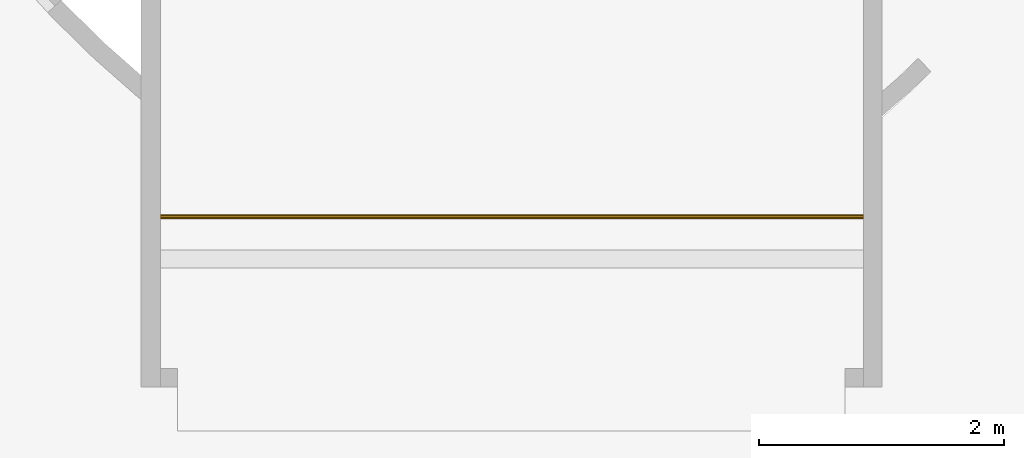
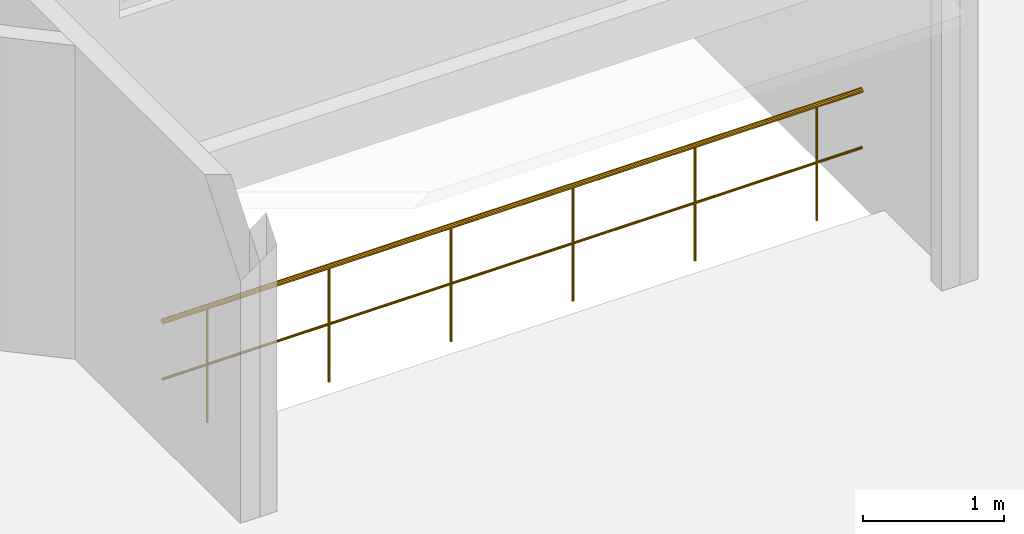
"""IFC4 building model written with IfcOpenShell, lengths in metres."""

from ifc_helpers import new_model, entity, si_unit, converted_unit, derived_unit, frame, origin, place, context, subcontext, project, spatial, faceted_brep, element, save


model = new_model("IFC4")

# Units and contexts
model_context = context("Model", 3, precision=1e-05, world=origin())
body_context = subcontext(model_context, "Body", "Model", "MODEL_VIEW")
ifc_project = project(units=[si_unit("LENGTHUNIT", "METRE"), si_unit("AREAUNIT", "SQUARE_METRE"), si_unit("VOLUMEUNIT", "CUBIC_METRE"), si_unit("MASSUNIT", "GRAM", prefix="KILO"), converted_unit("PLANEANGLEUNIT", "DEGREE", entity("IfcPlaneAngleMeasure", 0.0174532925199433), si_unit("PLANEANGLEUNIT", "RADIAN"), dimensions=[0, 0, 0, 0, 0, 0, 0]), derived_unit("THERMALTRANSMITTANCEUNIT", [(si_unit("POWERUNIT", "WATT"), 1), (si_unit("THERMODYNAMICTEMPERATUREUNIT", "KELVIN"), -1), (si_unit("LENGTHUNIT", "METRE"), -2)]), derived_unit("VOLUMETRICFLOWRATEUNIT", [(si_unit("LENGTHUNIT", "METRE"), 3), (converted_unit("TIMEUNIT", "hour", entity("IfcTimeMeasure", 3600.0), si_unit("TIMEUNIT", "SECOND"), dimensions=[0, 0, 1, 0, 0, 0, 0]), -1), (si_unit("LENGTHUNIT", "METRE"), -1)])], contexts=[model_context])

# Building, storeys
building_placement = place(None, origin())
building = spatial("IfcBuilding", under=ifc_project, at=building_placement, Name="HABITATGE PLURIFAMILIAR", CompositionType="ELEMENT")
storey_1_placement = place(building_placement, frame((0.0, 0.0, 21.2)))
storey_1 = spatial("IfcBuildingStorey", under=building, at=storey_1_placement, Name="PLANTA SOTACOBERTA", CompositionType="ELEMENT", Elevation=21.2)
storey_2_placement = place(storey_1_placement, origin())
storey_2 = spatial("IfcBuildingStorey", under=storey_1, at=storey_2_placement, Name="NOU", CompositionType="PARTIAL")

# Railing
railing_placement = place(storey_2_placement, frame((409.744883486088, 21.2286756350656, 0.0)))
element("IfcRailing", 1, at=railing_placement, inside=storey_2, Name="Baranna PSC exterior", context=body_context, shape_type="Brep", body=[
    faceted_brep([(5.74204814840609, 0.0, 1.00535898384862), (5.74204814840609, 0.0053589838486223, 1.01464101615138), (5.74204814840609, 0.0146410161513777, 1.02), (5.74204814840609, 0.0253589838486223, 1.02), (5.74204814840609, 0.0346410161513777, 1.01464101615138), (5.74204814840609, 0.04, 1.00535898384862), (5.74204814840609, 0.04, 0.994641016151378), (5.74204814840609, 0.0346410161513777, 0.985358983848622), (5.74204814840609, 0.0253589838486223, 0.98), (5.74204814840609, 0.0146410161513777, 0.98), (5.74204814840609, 0.0053589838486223, 0.985358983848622), (5.74204814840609, 0.0, 0.994641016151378), (0.0, 0.0, 1.00535898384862), (0.0, 0.0, 0.994641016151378), (0.0, 0.0053589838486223, 0.985358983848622), (0.0, 0.0146410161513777, 0.98), (0.0, 0.0253589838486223, 0.98), (0.0, 0.0346410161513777, 0.985358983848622), (0.0, 0.04, 0.994641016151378), (0.0, 0.04, 1.00535898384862), (0.0, 0.0346410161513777, 1.01464101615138), (0.0, 0.0253589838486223, 1.02), (0.0, 0.0146410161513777, 1.02), (0.0, 0.0053589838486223, 1.01464101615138)], [[[0, 1, 2, 3, 4, 5, 6, 7, 8, 9, 10, 11]], [[12, 13, 14, 15, 16, 17, 18, 19, 20, 21, 22, 23]], [[0, 12, 23, 1]], [[1, 23, 22, 2]], [[2, 22, 21, 3]], [[3, 21, 20, 4]], [[4, 20, 19, 5]], [[5, 19, 18, 6]], [[6, 18, 17, 7]], [[7, 17, 16, 8]], [[8, 16, 15, 9]], [[9, 15, 14, 10]], [[10, 14, 13, 11]], [[11, 13, 12, 0]]], orient=[[False], [False], [False], [False], [False], [False], [False], [False], [False], [False], [False], [False], [False], [False]]),
    faceted_brep([(5.36102407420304, 0.0173205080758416, 0.0), (5.36370356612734, 0.0126794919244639, 0.0), (5.36834458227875, 0.0100000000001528, 0.0), (5.37370356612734, 0.0100000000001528, 0.0), (5.37834458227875, 0.0126794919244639, 0.0), (5.38102407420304, 0.0173205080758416, 0.0), (5.38102407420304, 0.0226794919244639, 0.0), (5.37834458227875, 0.0273205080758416, 0.0), (5.37370356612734, 0.0300000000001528, 0.0), (5.36834458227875, 0.0300000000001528, 0.0), (5.36370356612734, 0.0273205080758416, 0.0), (5.36102407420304, 0.0226794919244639, 0.0), (5.36102407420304, 0.0173205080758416, 1.0), (5.36102407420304, 0.0226794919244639, 1.0), (5.36370356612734, 0.0273205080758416, 1.0), (5.36834458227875, 0.0300000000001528, 1.0), (5.37370356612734, 0.0300000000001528, 1.0), (5.37834458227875, 0.0273205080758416, 1.0), (5.38102407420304, 0.0226794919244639, 1.0), (5.38102407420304, 0.0173205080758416, 1.0), (5.37834458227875, 0.0126794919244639, 1.0), (5.37370356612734, 0.0100000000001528, 1.0), (5.36834458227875, 0.0100000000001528, 1.0), (5.36370356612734, 0.0126794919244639, 1.0)], [[[0, 1, 2, 3, 4, 5, 6, 7, 8, 9, 10, 11]], [[12, 13, 14, 15, 16, 17, 18, 19, 20, 21, 22, 23]], [[0, 12, 23, 1]], [[1, 23, 22, 2]], [[2, 22, 21, 3]], [[3, 21, 20, 4]], [[4, 20, 19, 5]], [[5, 19, 18, 6]], [[6, 18, 17, 7]], [[7, 17, 16, 8]], [[8, 16, 15, 9]], [[9, 15, 14, 10]], [[10, 14, 13, 11]], [[11, 13, 12, 0]]], orient=[[False], [False], [False], [False], [False], [False], [False], [False], [False], [False], [False], [False], [False], [False]]),
    faceted_brep([(4.36102407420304, 0.0173205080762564, 0.0), (4.36370356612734, 0.0126794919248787, 0.0), (4.36834458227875, 0.0100000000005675, 0.0), (4.37370356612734, 0.0100000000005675, 0.0), (4.37834458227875, 0.0126794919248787, 0.0), (4.38102407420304, 0.0173205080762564, 0.0), (4.38102407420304, 0.0226794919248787, 0.0), (4.37834458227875, 0.0273205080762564, 0.0), (4.37370356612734, 0.0300000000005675, 0.0), (4.36834458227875, 0.0300000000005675, 0.0), (4.36370356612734, 0.0273205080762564, 0.0), (4.36102407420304, 0.0226794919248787, 0.0), (4.36102407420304, 0.0173205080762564, 1.0), (4.36102407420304, 0.0226794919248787, 1.0), (4.36370356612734, 0.0273205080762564, 1.0), (4.36834458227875, 0.0300000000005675, 1.0), (4.37370356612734, 0.0300000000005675, 1.0), (4.37834458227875, 0.0273205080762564, 1.0), (4.38102407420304, 0.0226794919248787, 1.0), (4.38102407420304, 0.0173205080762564, 1.0), (4.37834458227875, 0.0126794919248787, 1.0), (4.37370356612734, 0.0100000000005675, 1.0), (4.36834458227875, 0.0100000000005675, 1.0), (4.36370356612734, 0.0126794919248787, 1.0)], [[[0, 1, 2, 3, 4, 5, 6, 7, 8, 9, 10, 11]], [[12, 13, 14, 15, 16, 17, 18, 19, 20, 21, 22, 23]], [[0, 12, 23, 1]], [[1, 23, 22, 2]], [[2, 22, 21, 3]], [[3, 21, 20, 4]], [[4, 20, 19, 5]], [[5, 19, 18, 6]], [[6, 18, 17, 7]], [[7, 17, 16, 8]], [[8, 16, 15, 9]], [[9, 15, 14, 10]], [[10, 14, 13, 11]], [[11, 13, 12, 0]]], orient=[[False], [False], [False], [False], [False], [False], [False], [False], [False], [False], [False], [False], [False], [False]]),
    faceted_brep([(3.36102407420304, 0.0173205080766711, 0.0), (3.36370356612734, 0.0126794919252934, 0.0), (3.36834458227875, 0.0100000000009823, 0.0), (3.37370356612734, 0.0100000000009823, 0.0), (3.37834458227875, 0.0126794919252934, 0.0), (3.38102407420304, 0.0173205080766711, 0.0), (3.38102407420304, 0.0226794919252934, 0.0), (3.37834458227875, 0.0273205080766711, 0.0), (3.37370356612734, 0.0300000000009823, 0.0), (3.36834458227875, 0.0300000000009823, 0.0), (3.36370356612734, 0.0273205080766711, 0.0), (3.36102407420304, 0.0226794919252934, 0.0), (3.36102407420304, 0.0173205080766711, 1.0), (3.36102407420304, 0.0226794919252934, 1.0), (3.36370356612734, 0.0273205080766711, 1.0), (3.36834458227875, 0.0300000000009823, 1.0), (3.37370356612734, 0.0300000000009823, 1.0), (3.37834458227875, 0.0273205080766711, 1.0), (3.38102407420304, 0.0226794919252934, 1.0), (3.38102407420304, 0.0173205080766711, 1.0), (3.37834458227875, 0.0126794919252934, 1.0), (3.37370356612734, 0.0100000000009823, 1.0), (3.36834458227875, 0.0100000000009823, 1.0), (3.36370356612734, 0.0126794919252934, 1.0)], [[[0, 1, 2, 3, 4, 5, 6, 7, 8, 9, 10, 11]], [[12, 13, 14, 15, 16, 17, 18, 19, 20, 21, 22, 23]], [[0, 12, 23, 1]], [[1, 23, 22, 2]], [[2, 22, 21, 3]], [[3, 21, 20, 4]], [[4, 20, 19, 5]], [[5, 19, 18, 6]], [[6, 18, 17, 7]], [[7, 17, 16, 8]], [[8, 16, 15, 9]], [[9, 15, 14, 10]], [[10, 14, 13, 11]], [[11, 13, 12, 0]]], orient=[[False], [False], [False], [False], [False], [False], [False], [False], [False], [False], [False], [False], [False], [False]]),
    faceted_brep([(2.36102407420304, 0.0173205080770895, 0.0), (2.36370356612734, 0.0126794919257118, 0.0), (2.36834458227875, 0.0100000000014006, 0.0), (2.37370356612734, 0.0100000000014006, 0.0), (2.37834458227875, 0.0126794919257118, 0.0), (2.38102407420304, 0.0173205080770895, 0.0), (2.38102407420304, 0.0226794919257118, 0.0), (2.37834458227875, 0.0273205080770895, 0.0), (2.37370356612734, 0.0300000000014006, 0.0), (2.36834458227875, 0.0300000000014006, 0.0), (2.36370356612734, 0.0273205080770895, 0.0), (2.36102407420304, 0.0226794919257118, 0.0), (2.36102407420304, 0.0173205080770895, 1.0), (2.36102407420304, 0.0226794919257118, 1.0), (2.36370356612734, 0.0273205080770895, 1.0), (2.36834458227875, 0.0300000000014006, 1.0), (2.37370356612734, 0.0300000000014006, 1.0), (2.37834458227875, 0.0273205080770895, 1.0), (2.38102407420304, 0.0226794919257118, 1.0), (2.38102407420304, 0.0173205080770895, 1.0), (2.37834458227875, 0.0126794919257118, 1.0), (2.37370356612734, 0.0100000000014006, 1.0), (2.36834458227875, 0.0100000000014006, 1.0), (2.36370356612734, 0.0126794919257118, 1.0)], [[[0, 1, 2, 3, 4, 5, 6, 7, 8, 9, 10, 11]], [[12, 13, 14, 15, 16, 17, 18, 19, 20, 21, 22, 23]], [[0, 12, 23, 1]], [[1, 23, 22, 2]], [[2, 22, 21, 3]], [[3, 21, 20, 4]], [[4, 20, 19, 5]], [[5, 19, 18, 6]], [[6, 18, 17, 7]], [[7, 17, 16, 8]], [[8, 16, 15, 9]], [[9, 15, 14, 10]], [[10, 14, 13, 11]], [[11, 13, 12, 0]]], orient=[[False], [False], [False], [False], [False], [False], [False], [False], [False], [False], [False], [False], [False], [False]]),
    faceted_brep([(1.36102407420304, 0.0173205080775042, 0.0), (1.36370356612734, 0.0126794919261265, 0.0), (1.36834458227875, 0.0100000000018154, 0.0), (1.37370356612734, 0.0100000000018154, 0.0), (1.37834458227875, 0.0126794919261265, 0.0), (1.38102407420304, 0.0173205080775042, 0.0), (1.38102407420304, 0.0226794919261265, 0.0), (1.37834458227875, 0.0273205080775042, 0.0), (1.37370356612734, 0.0300000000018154, 0.0), (1.36834458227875, 0.0300000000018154, 0.0), (1.36370356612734, 0.0273205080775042, 0.0), (1.36102407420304, 0.0226794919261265, 0.0), (1.36102407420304, 0.0173205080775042, 1.0), (1.36102407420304, 0.0226794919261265, 1.0), (1.36370356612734, 0.0273205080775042, 1.0), (1.36834458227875, 0.0300000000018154, 1.0), (1.37370356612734, 0.0300000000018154, 1.0), (1.37834458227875, 0.0273205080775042, 1.0), (1.38102407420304, 0.0226794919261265, 1.0), (1.38102407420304, 0.0173205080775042, 1.0), (1.37834458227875, 0.0126794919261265, 1.0), (1.37370356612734, 0.0100000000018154, 1.0), (1.36834458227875, 0.0100000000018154, 1.0), (1.36370356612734, 0.0126794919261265, 1.0)], [[[0, 1, 2, 3, 4, 5, 6, 7, 8, 9, 10, 11]], [[12, 13, 14, 15, 16, 17, 18, 19, 20, 21, 22, 23]], [[0, 12, 23, 1]], [[1, 23, 22, 2]], [[2, 22, 21, 3]], [[3, 21, 20, 4]], [[4, 20, 19, 5]], [[5, 19, 18, 6]], [[6, 18, 17, 7]], [[7, 17, 16, 8]], [[8, 16, 15, 9]], [[9, 15, 14, 10]], [[10, 14, 13, 11]], [[11, 13, 12, 0]]], orient=[[False], [False], [False], [False], [False], [False], [False], [False], [False], [False], [False], [False], [False], [False]]),
    faceted_brep([(0.361024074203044, 0.0173205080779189, 0.0), (0.36370356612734, 0.0126794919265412, 0.0), (0.368344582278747, 0.0100000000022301, 0.0), (0.37370356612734, 0.0100000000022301, 0.0), (0.378344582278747, 0.0126794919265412, 0.0), (0.381024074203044, 0.0173205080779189, 0.0), (0.381024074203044, 0.0226794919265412, 0.0), (0.378344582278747, 0.0273205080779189, 0.0), (0.37370356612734, 0.0300000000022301, 0.0), (0.368344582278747, 0.0300000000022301, 0.0), (0.36370356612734, 0.0273205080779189, 0.0), (0.361024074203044, 0.0226794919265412, 0.0), (0.361024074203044, 0.0173205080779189, 1.0), (0.361024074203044, 0.0226794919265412, 1.0), (0.36370356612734, 0.0273205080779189, 1.0), (0.368344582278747, 0.0300000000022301, 1.0), (0.37370356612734, 0.0300000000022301, 1.0), (0.378344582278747, 0.0273205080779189, 1.0), (0.381024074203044, 0.0226794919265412, 1.0), (0.381024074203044, 0.0173205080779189, 1.0), (0.378344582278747, 0.0126794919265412, 1.0), (0.37370356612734, 0.0100000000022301, 1.0), (0.368344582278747, 0.0100000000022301, 1.0), (0.36370356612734, 0.0126794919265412, 1.0)], [[[0, 1, 2, 3, 4, 5, 6, 7, 8, 9, 10, 11]], [[12, 13, 14, 15, 16, 17, 18, 19, 20, 21, 22, 23]], [[0, 12, 23, 1]], [[1, 23, 22, 2]], [[2, 22, 21, 3]], [[3, 21, 20, 4]], [[4, 20, 19, 5]], [[5, 19, 18, 6]], [[6, 18, 17, 7]], [[7, 17, 16, 8]], [[8, 16, 15, 9]], [[9, 15, 14, 10]], [[10, 14, 13, 11]], [[11, 13, 12, 0]]], orient=[[False], [False], [False], [False], [False], [False], [False], [False], [False], [False], [False], [False], [False], [False]]),
    faceted_brep([(5.74204814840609, 0.01, 0.502679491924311), (5.74204814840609, 0.0126794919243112, 0.507320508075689), (5.74204814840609, 0.0173205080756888, 0.51), (5.74204814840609, 0.0226794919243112, 0.51), (5.74204814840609, 0.0273205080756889, 0.507320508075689), (5.74204814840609, 0.03, 0.502679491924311), (5.74204814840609, 0.03, 0.497320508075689), (5.74204814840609, 0.0273205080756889, 0.492679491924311), (5.74204814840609, 0.0226794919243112, 0.49), (5.74204814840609, 0.0173205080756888, 0.49), (5.74204814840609, 0.0126794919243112, 0.492679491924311), (5.74204814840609, 0.01, 0.497320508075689), (5.37102407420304, 0.01, 0.502679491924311), (5.37102407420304, 0.01, 0.497320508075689), (5.37102407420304, 0.0126794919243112, 0.492679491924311), (5.37102407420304, 0.0173205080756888, 0.49), (5.37102407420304, 0.0226794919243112, 0.49), (5.37102407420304, 0.0273205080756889, 0.492679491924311), (5.37102407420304, 0.03, 0.497320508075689), (5.37102407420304, 0.03, 0.502679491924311), (5.37102407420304, 0.0273205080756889, 0.507320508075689), (5.37102407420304, 0.0226794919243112, 0.51), (5.37102407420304, 0.0173205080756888, 0.51), (5.37102407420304, 0.0126794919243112, 0.507320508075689)], [[[0, 1, 2, 3, 4, 5, 6, 7, 8, 9, 10, 11]], [[12, 13, 14, 15, 16, 17, 18, 19, 20, 21, 22, 23]], [[0, 12, 23, 1]], [[1, 23, 22, 2]], [[2, 22, 21, 3]], [[3, 21, 20, 4]], [[4, 20, 19, 5]], [[5, 19, 18, 6]], [[6, 18, 17, 7]], [[7, 17, 16, 8]], [[8, 16, 15, 9]], [[9, 15, 14, 10]], [[10, 14, 13, 11]], [[11, 13, 12, 0]]], orient=[[False], [False], [False], [False], [False], [False], [False], [False], [False], [False], [False], [False], [False], [False]]),
    faceted_brep([(5.37102407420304, 0.0100000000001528, 0.502679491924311), (5.37102407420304, 0.0126794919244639, 0.507320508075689), (5.37102407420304, 0.0173205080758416, 0.51), (5.37102407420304, 0.0226794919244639, 0.51), (5.37102407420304, 0.0273205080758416, 0.507320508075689), (5.37102407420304, 0.0300000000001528, 0.502679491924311), (5.37102407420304, 0.0300000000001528, 0.497320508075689), (5.37102407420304, 0.0273205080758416, 0.492679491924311), (5.37102407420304, 0.0226794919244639, 0.49), (5.37102407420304, 0.0173205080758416, 0.49), (5.37102407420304, 0.0126794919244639, 0.492679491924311), (5.37102407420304, 0.0100000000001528, 0.497320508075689), (4.37102407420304, 0.0100000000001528, 0.502679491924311), (4.37102407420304, 0.0100000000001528, 0.497320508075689), (4.37102407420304, 0.0126794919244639, 0.492679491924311), (4.37102407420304, 0.0173205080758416, 0.49), (4.37102407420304, 0.0226794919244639, 0.49), (4.37102407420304, 0.0273205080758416, 0.492679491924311), (4.37102407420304, 0.0300000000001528, 0.497320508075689), (4.37102407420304, 0.0300000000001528, 0.502679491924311), (4.37102407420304, 0.0273205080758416, 0.507320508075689), (4.37102407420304, 0.0226794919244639, 0.51), (4.37102407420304, 0.0173205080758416, 0.51), (4.37102407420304, 0.0126794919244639, 0.507320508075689)], [[[0, 1, 2, 3, 4, 5, 6, 7, 8, 9, 10, 11]], [[12, 13, 14, 15, 16, 17, 18, 19, 20, 21, 22, 23]], [[0, 12, 23, 1]], [[1, 23, 22, 2]], [[2, 22, 21, 3]], [[3, 21, 20, 4]], [[4, 20, 19, 5]], [[5, 19, 18, 6]], [[6, 18, 17, 7]], [[7, 17, 16, 8]], [[8, 16, 15, 9]], [[9, 15, 14, 10]], [[10, 14, 13, 11]], [[11, 13, 12, 0]]], orient=[[False], [False], [False], [False], [False], [False], [False], [False], [False], [False], [False], [False], [False], [False]]),
    faceted_brep([(4.37102407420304, 0.0100000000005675, 0.502679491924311), (4.37102407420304, 0.0126794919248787, 0.507320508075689), (4.37102407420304, 0.0173205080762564, 0.51), (4.37102407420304, 0.0226794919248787, 0.51), (4.37102407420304, 0.0273205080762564, 0.507320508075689), (4.37102407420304, 0.0300000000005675, 0.502679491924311), (4.37102407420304, 0.0300000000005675, 0.497320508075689), (4.37102407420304, 0.0273205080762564, 0.492679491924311), (4.37102407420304, 0.0226794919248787, 0.49), (4.37102407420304, 0.0173205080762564, 0.49), (4.37102407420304, 0.0126794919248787, 0.492679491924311), (4.37102407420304, 0.0100000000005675, 0.497320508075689), (3.37102407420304, 0.0100000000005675, 0.502679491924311), (3.37102407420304, 0.0100000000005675, 0.497320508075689), (3.37102407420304, 0.0126794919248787, 0.492679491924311), (3.37102407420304, 0.0173205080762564, 0.49), (3.37102407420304, 0.0226794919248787, 0.49), (3.37102407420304, 0.0273205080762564, 0.492679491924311), (3.37102407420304, 0.0300000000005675, 0.497320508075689), (3.37102407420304, 0.0300000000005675, 0.502679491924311), (3.37102407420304, 0.0273205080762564, 0.507320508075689), (3.37102407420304, 0.0226794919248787, 0.51), (3.37102407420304, 0.0173205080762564, 0.51), (3.37102407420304, 0.0126794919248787, 0.507320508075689)], [[[0, 1, 2, 3, 4, 5, 6, 7, 8, 9, 10, 11]], [[12, 13, 14, 15, 16, 17, 18, 19, 20, 21, 22, 23]], [[0, 12, 23, 1]], [[1, 23, 22, 2]], [[2, 22, 21, 3]], [[3, 21, 20, 4]], [[4, 20, 19, 5]], [[5, 19, 18, 6]], [[6, 18, 17, 7]], [[7, 17, 16, 8]], [[8, 16, 15, 9]], [[9, 15, 14, 10]], [[10, 14, 13, 11]], [[11, 13, 12, 0]]], orient=[[False], [False], [False], [False], [False], [False], [False], [False], [False], [False], [False], [False], [False], [False]]),
    faceted_brep([(3.37102407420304, 0.0100000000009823, 0.502679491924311), (3.37102407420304, 0.0126794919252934, 0.507320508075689), (3.37102407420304, 0.0173205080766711, 0.51), (3.37102407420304, 0.0226794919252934, 0.51), (3.37102407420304, 0.0273205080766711, 0.507320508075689), (3.37102407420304, 0.0300000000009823, 0.502679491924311), (3.37102407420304, 0.0300000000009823, 0.497320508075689), (3.37102407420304, 0.0273205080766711, 0.492679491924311), (3.37102407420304, 0.0226794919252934, 0.49), (3.37102407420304, 0.0173205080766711, 0.49), (3.37102407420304, 0.0126794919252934, 0.492679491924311), (3.37102407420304, 0.0100000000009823, 0.497320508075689), (2.37102407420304, 0.0100000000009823, 0.502679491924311), (2.37102407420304, 0.0100000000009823, 0.497320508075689), (2.37102407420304, 0.0126794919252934, 0.492679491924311), (2.37102407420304, 0.0173205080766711, 0.49), (2.37102407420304, 0.0226794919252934, 0.49), (2.37102407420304, 0.0273205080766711, 0.492679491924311), (2.37102407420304, 0.0300000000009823, 0.497320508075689), (2.37102407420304, 0.0300000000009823, 0.502679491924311), (2.37102407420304, 0.0273205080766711, 0.507320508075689), (2.37102407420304, 0.0226794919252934, 0.51), (2.37102407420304, 0.0173205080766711, 0.51), (2.37102407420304, 0.0126794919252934, 0.507320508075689)], [[[0, 1, 2, 3, 4, 5, 6, 7, 8, 9, 10, 11]], [[12, 13, 14, 15, 16, 17, 18, 19, 20, 21, 22, 23]], [[0, 12, 23, 1]], [[1, 23, 22, 2]], [[2, 22, 21, 3]], [[3, 21, 20, 4]], [[4, 20, 19, 5]], [[5, 19, 18, 6]], [[6, 18, 17, 7]], [[7, 17, 16, 8]], [[8, 16, 15, 9]], [[9, 15, 14, 10]], [[10, 14, 13, 11]], [[11, 13, 12, 0]]], orient=[[False], [False], [False], [False], [False], [False], [False], [False], [False], [False], [False], [False], [False], [False]]),
    faceted_brep([(2.37102407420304, 0.0100000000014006, 0.502679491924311), (2.37102407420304, 0.0126794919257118, 0.507320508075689), (2.37102407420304, 0.0173205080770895, 0.51), (2.37102407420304, 0.0226794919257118, 0.51), (2.37102407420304, 0.0273205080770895, 0.507320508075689), (2.37102407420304, 0.0300000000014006, 0.502679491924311), (2.37102407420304, 0.0300000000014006, 0.497320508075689), (2.37102407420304, 0.0273205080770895, 0.492679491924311), (2.37102407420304, 0.0226794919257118, 0.49), (2.37102407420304, 0.0173205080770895, 0.49), (2.37102407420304, 0.0126794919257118, 0.492679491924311), (2.37102407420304, 0.0100000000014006, 0.497320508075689), (1.37102407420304, 0.0100000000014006, 0.502679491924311), (1.37102407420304, 0.0100000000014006, 0.497320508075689), (1.37102407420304, 0.0126794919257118, 0.492679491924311), (1.37102407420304, 0.0173205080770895, 0.49), (1.37102407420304, 0.0226794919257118, 0.49), (1.37102407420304, 0.0273205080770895, 0.492679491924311), (1.37102407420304, 0.0300000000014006, 0.497320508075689), (1.37102407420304, 0.0300000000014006, 0.502679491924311), (1.37102407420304, 0.0273205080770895, 0.507320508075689), (1.37102407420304, 0.0226794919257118, 0.51), (1.37102407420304, 0.0173205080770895, 0.51), (1.37102407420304, 0.0126794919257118, 0.507320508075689)], [[[0, 1, 2, 3, 4, 5, 6, 7, 8, 9, 10, 11]], [[12, 13, 14, 15, 16, 17, 18, 19, 20, 21, 22, 23]], [[0, 12, 23, 1]], [[1, 23, 22, 2]], [[2, 22, 21, 3]], [[3, 21, 20, 4]], [[4, 20, 19, 5]], [[5, 19, 18, 6]], [[6, 18, 17, 7]], [[7, 17, 16, 8]], [[8, 16, 15, 9]], [[9, 15, 14, 10]], [[10, 14, 13, 11]], [[11, 13, 12, 0]]], orient=[[False], [False], [False], [False], [False], [False], [False], [False], [False], [False], [False], [False], [False], [False]]),
    faceted_brep([(1.37102407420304, 0.0100000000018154, 0.502679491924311), (1.37102407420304, 0.0126794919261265, 0.507320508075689), (1.37102407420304, 0.0173205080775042, 0.51), (1.37102407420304, 0.0226794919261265, 0.51), (1.37102407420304, 0.0273205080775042, 0.507320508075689), (1.37102407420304, 0.0300000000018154, 0.502679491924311), (1.37102407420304, 0.0300000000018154, 0.497320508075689), (1.37102407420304, 0.0273205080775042, 0.492679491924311), (1.37102407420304, 0.0226794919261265, 0.49), (1.37102407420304, 0.0173205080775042, 0.49), (1.37102407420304, 0.0126794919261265, 0.492679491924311), (1.37102407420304, 0.0100000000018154, 0.497320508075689), (0.371024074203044, 0.0100000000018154, 0.502679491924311), (0.371024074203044, 0.0100000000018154, 0.497320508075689), (0.371024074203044, 0.0126794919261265, 0.492679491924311), (0.371024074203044, 0.0173205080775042, 0.49), (0.371024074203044, 0.0226794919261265, 0.49), (0.371024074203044, 0.0273205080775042, 0.492679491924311), (0.371024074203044, 0.0300000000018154, 0.497320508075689), (0.371024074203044, 0.0300000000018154, 0.502679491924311), (0.371024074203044, 0.0273205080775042, 0.507320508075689), (0.371024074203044, 0.0226794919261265, 0.51), (0.371024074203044, 0.0173205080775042, 0.51), (0.371024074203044, 0.0126794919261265, 0.507320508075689)], [[[0, 1, 2, 3, 4, 5, 6, 7, 8, 9, 10, 11]], [[12, 13, 14, 15, 16, 17, 18, 19, 20, 21, 22, 23]], [[0, 12, 23, 1]], [[1, 23, 22, 2]], [[2, 22, 21, 3]], [[3, 21, 20, 4]], [[4, 20, 19, 5]], [[5, 19, 18, 6]], [[6, 18, 17, 7]], [[7, 17, 16, 8]], [[8, 16, 15, 9]], [[9, 15, 14, 10]], [[10, 14, 13, 11]], [[11, 13, 12, 0]]], orient=[[False], [False], [False], [False], [False], [False], [False], [False], [False], [False], [False], [False], [False], [False]]),
    faceted_brep([(0.371024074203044, 0.0100000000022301, 0.502679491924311), (0.371024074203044, 0.0126794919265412, 0.507320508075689), (0.371024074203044, 0.0173205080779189, 0.51), (0.371024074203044, 0.0226794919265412, 0.51), (0.371024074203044, 0.0273205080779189, 0.507320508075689), (0.371024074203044, 0.0300000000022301, 0.502679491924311), (0.371024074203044, 0.0300000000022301, 0.497320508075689), (0.371024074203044, 0.0273205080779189, 0.492679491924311), (0.371024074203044, 0.0226794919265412, 0.49), (0.371024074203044, 0.0173205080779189, 0.49), (0.371024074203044, 0.0126794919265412, 0.492679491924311), (0.371024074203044, 0.0100000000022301, 0.497320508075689), (0.0, 0.0100000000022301, 0.502679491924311), (0.0, 0.0100000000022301, 0.497320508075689), (0.0, 0.0126794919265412, 0.492679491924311), (0.0, 0.0173205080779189, 0.49), (0.0, 0.0226794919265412, 0.49), (0.0, 0.0273205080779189, 0.492679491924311), (0.0, 0.0300000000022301, 0.497320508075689), (0.0, 0.0300000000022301, 0.502679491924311), (0.0, 0.0273205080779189, 0.507320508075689), (0.0, 0.0226794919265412, 0.51), (0.0, 0.0173205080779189, 0.51), (0.0, 0.0126794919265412, 0.507320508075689)], [[[0, 1, 2, 3, 4, 5, 6, 7, 8, 9, 10, 11]], [[12, 13, 14, 15, 16, 17, 18, 19, 20, 21, 22, 23]], [[0, 12, 23, 1]], [[1, 23, 22, 2]], [[2, 22, 21, 3]], [[3, 21, 20, 4]], [[4, 20, 19, 5]], [[5, 19, 18, 6]], [[6, 18, 17, 7]], [[7, 17, 16, 8]], [[8, 16, 15, 9]], [[9, 15, 14, 10]], [[10, 14, 13, 11]], [[11, 13, 12, 0]]], orient=[[False], [False], [False], [False], [False], [False], [False], [False], [False], [False], [False], [False], [False], [False]]),
])

save(model, "model.ifc")
